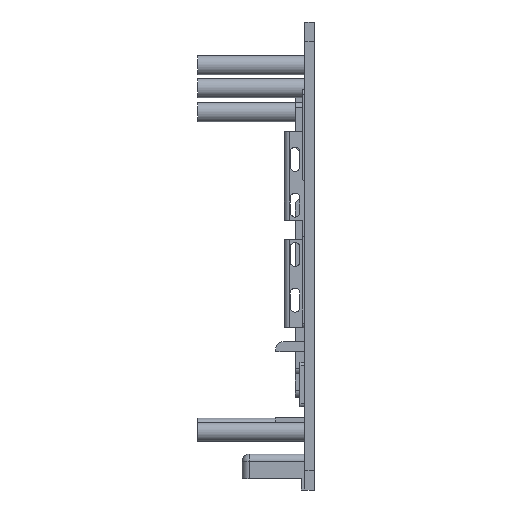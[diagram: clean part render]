
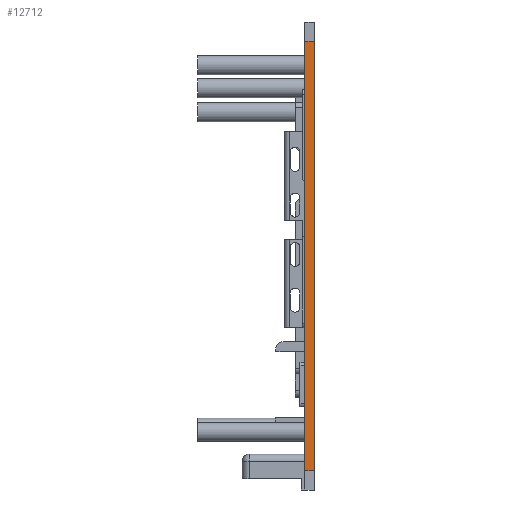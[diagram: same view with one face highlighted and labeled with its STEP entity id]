
A CAD part, left-side view. The second image highlights one B-rep face of the part: STEP entity #12712.
In plain terms, the highlighted planar face has unit normal (-1, 0, 0).
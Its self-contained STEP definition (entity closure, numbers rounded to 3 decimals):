
#296=PLANE('',#13630);
#980=FACE_OUTER_BOUND('',#1722,.T.);
#1722=EDGE_LOOP('',(#11565,#11566,#11567,#11568));
#3248=LINE('',#28473,#4154);
#3606=LINE('',#42422,#4512);
#3644=LINE('',#42844,#4550);
#3645=LINE('',#42846,#4551);
#4154=VECTOR('',#15184,10.);
#4512=VECTOR('',#16202,10.);
#4550=VECTOR('',#16332,10.);
#4551=VECTOR('',#16335,10.);
#5461=VERTEX_POINT('',#28470);
#5462=VERTEX_POINT('',#28472);
#5791=VERTEX_POINT('',#42419);
#5792=VERTEX_POINT('',#42421);
#7094=EDGE_CURVE('',#5461,#5462,#3248,.T.);
#7670=EDGE_CURVE('',#5791,#5792,#3606,.T.);
#7742=EDGE_CURVE('',#5461,#5792,#3644,.T.);
#7743=EDGE_CURVE('',#5462,#5791,#3645,.T.);
#11565=ORIENTED_EDGE('',*,*,#7094,.F.);
#11566=ORIENTED_EDGE('',*,*,#7742,.T.);
#11567=ORIENTED_EDGE('',*,*,#7670,.F.);
#11568=ORIENTED_EDGE('',*,*,#7743,.F.);
#12712=ADVANCED_FACE('',(#980),#296,.T.);
#13630=AXIS2_PLACEMENT_3D('',#42845,#16333,#16334);
#15184=DIRECTION('',(0.,0.,1.));
#16202=DIRECTION('',(0.,0.,-1.));
#16332=DIRECTION('',(0.,-1.,0.));
#16333=DIRECTION('center_axis',(-1.,0.,0.));
#16334=DIRECTION('ref_axis',(0.,0.,-1.));
#16335=DIRECTION('',(0.,-1.,0.));
#28470=CARTESIAN_POINT('',(-97.15,-75.,-89.15));
#28472=CARTESIAN_POINT('',(-97.15,-75.,89.15));
#28473=CARTESIAN_POINT('',(-97.15,-75.,-97.15));
#42419=CARTESIAN_POINT('',(-97.15,-79.,89.15));
#42421=CARTESIAN_POINT('',(-97.15,-79.,-89.15));
#42422=CARTESIAN_POINT('',(-97.15,-79.,-97.15));
#42844=CARTESIAN_POINT('',(-97.15,-75.,-89.15));
#42845=CARTESIAN_POINT('Origin',(-97.15,-75.,89.15));
#42846=CARTESIAN_POINT('',(-97.15,-75.,89.15));
